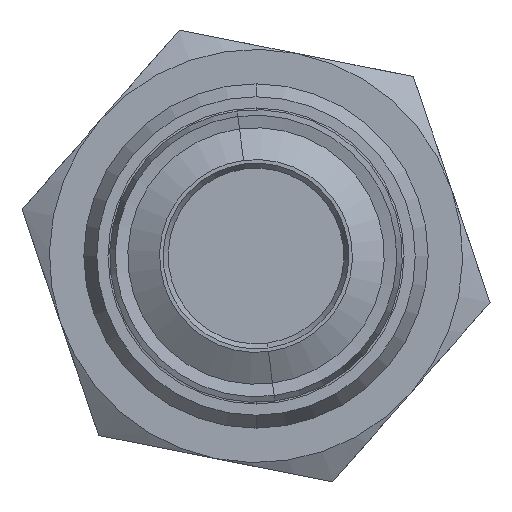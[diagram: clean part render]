
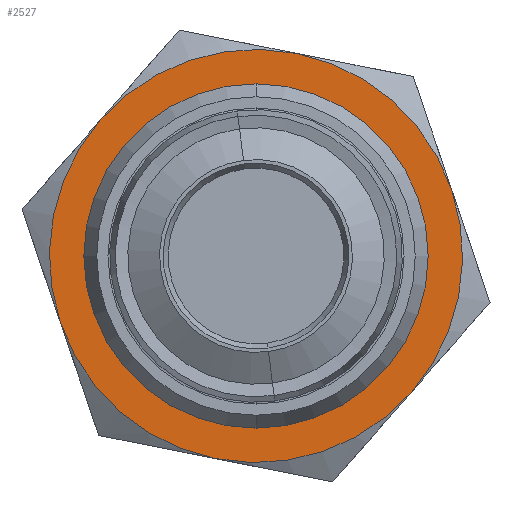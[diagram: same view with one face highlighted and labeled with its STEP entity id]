
A CAD part, front view. The second image highlights one B-rep face of the part: STEP entity #2527.
In plain terms, the highlighted planar face has unit normal (0, -1, 0).
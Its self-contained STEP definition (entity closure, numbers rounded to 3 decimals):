
#108 = AXIS2_PLACEMENT_3D ( 'NONE', #2832, #2865, #2871 ) ;
#143 = AXIS2_PLACEMENT_3D ( 'NONE', #2706, #2713, #2718 ) ;
#149 = DIRECTION ( 'NONE',  ( -0.195, 0., -0.981 ) ) ;
#203 = EDGE_CURVE ( 'NONE', #2036, #1544, #2442, .T. ) ;
#211 = DIRECTION ( 'NONE',  ( 0., -1., 0. ) ) ;
#384 = CARTESIAN_POINT ( 'NONE',  ( -18.188, 36.832, 5.522 ) ) ;
#447 = ORIENTED_EDGE ( 'NONE', *, *, #1353, .T. ) ;
#452 = DIRECTION ( 'NONE',  ( 0., -1., 0. ) ) ;
#531 = EDGE_CURVE ( 'NONE', #3167, #1917, #1327, .T. ) ;
#570 = DIRECTION ( 'NONE',  ( 0., -1., 0. ) ) ;
#595 = CARTESIAN_POINT ( 'NONE',  ( -18.188, 36.832, 5.522 ) ) ;
#598 = VERTEX_POINT ( 'NONE', #1940 ) ;
#622 = DIRECTION ( 'NONE',  ( -0.195, 0., -0.981 ) ) ;
#636 = AXIS2_PLACEMENT_3D ( 'NONE', #1200, #211, #149 ) ;
#662 = AXIS2_PLACEMENT_3D ( 'NONE', #595, #452, #622 ) ;
#722 = DIRECTION ( 'NONE',  ( -0.195, 0., -0.981 ) ) ;
#723 = EDGE_CURVE ( 'NONE', #1917, #598, #3392, .T. ) ;
#742 = EDGE_CURVE ( 'NONE', #598, #1533, #3198, .T. ) ;
#962 = CIRCLE ( 'NONE', #4121, 10. ) ;
#1087 = CARTESIAN_POINT ( 'NONE',  ( -18.188, 36.832, -4.478 ) ) ;
#1108 = FACE_OUTER_BOUND ( 'NONE', #2948, .T. ) ;
#1112 = CARTESIAN_POINT ( 'NONE',  ( -27.213, 36.832, 13.431 ) ) ;
#1145 = AXIS2_PLACEMENT_3D ( 'NONE', #1802, #1806, #1810 ) ;
#1149 = CARTESIAN_POINT ( 'NONE',  ( -20.526, 36.832, -6.248 ) ) ;
#1164 = FACE_BOUND ( 'NONE', #3497, .T. ) ;
#1190 = ORIENTED_EDGE ( 'NONE', *, *, #742, .T. ) ;
#1200 = CARTESIAN_POINT ( 'NONE',  ( -18.188, 36.832, 5.522 ) ) ;
#1228 = CARTESIAN_POINT ( 'NONE',  ( -18.188, 36.832, 5.522 ) ) ;
#1232 = DIRECTION ( 'NONE',  ( 0., 1., 0. ) ) ;
#1244 = DIRECTION ( 'NONE',  ( 0., 0., -1. ) ) ;
#1277 = EDGE_CURVE ( 'NONE', #3171, #2313, #3836, .T. ) ;
#1327 = CIRCLE ( 'NONE', #1145, 12. ) ;
#1353 = EDGE_CURVE ( 'NONE', #1533, #3171, #2961, .T. ) ;
#1500 = AXIS2_PLACEMENT_3D ( 'NONE', #3299, #3370, #3248 ) ;
#1523 = ORIENTED_EDGE ( 'NONE', *, *, #531, .T. ) ;
#1533 = VERTEX_POINT ( 'NONE', #3114 ) ;
#1544 = VERTEX_POINT ( 'NONE', #3128 ) ;
#1566 = EDGE_CURVE ( 'NONE', #1544, #2036, #962, .T. ) ;
#1572 = AXIS2_PLACEMENT_3D ( 'NONE', #1228, #1232, #1244 ) ;
#1802 = CARTESIAN_POINT ( 'NONE',  ( -18.188, 36.832, 5.522 ) ) ;
#1806 = DIRECTION ( 'NONE',  ( 0., -1., 0. ) ) ;
#1810 = DIRECTION ( 'NONE',  ( -0.195, 0., -0.981 ) ) ;
#1862 = CIRCLE ( 'NONE', #3926, 12. ) ;
#1917 = VERTEX_POINT ( 'NONE', #3771 ) ;
#1940 = CARTESIAN_POINT ( 'NONE',  ( -6.826, 36.832, 9.383 ) ) ;
#2013 = EDGE_CURVE ( 'NONE', #2313, #3167, #1862, .T. ) ;
#2036 = VERTEX_POINT ( 'NONE', #1087 ) ;
#2313 = VERTEX_POINT ( 'NONE', #3405 ) ;
#2404 = ORIENTED_EDGE ( 'NONE', *, *, #1566, .T. ) ;
#2442 = CIRCLE ( 'NONE', #1572, 10. ) ;
#2527 = ADVANCED_FACE ( 'NONE', ( #1164, #1108 ), #3264, .T. ) ;
#2706 = CARTESIAN_POINT ( 'NONE',  ( -18.188, 36.832, 5.522 ) ) ;
#2713 = DIRECTION ( 'NONE',  ( 0., -1., 0. ) ) ;
#2718 = DIRECTION ( 'NONE',  ( -0.195, 0., -0.981 ) ) ;
#2832 = CARTESIAN_POINT ( 'NONE',  ( -18.188, 36.832, 5.522 ) ) ;
#2865 = DIRECTION ( 'NONE',  ( 0., -1., 0. ) ) ;
#2871 = DIRECTION ( 'NONE',  ( -0.195, 0., -0.981 ) ) ;
#2948 = EDGE_LOOP ( 'NONE', ( #1523, #3442, #1190, #447, #3654, #3380 ) ) ;
#2961 = CIRCLE ( 'NONE', #108, 12. ) ;
#3114 = CARTESIAN_POINT ( 'NONE',  ( -15.851, 36.832, 17.292 ) ) ;
#3128 = CARTESIAN_POINT ( 'NONE',  ( -18.188, 36.832, 15.522 ) ) ;
#3167 = VERTEX_POINT ( 'NONE', #1149 ) ;
#3171 = VERTEX_POINT ( 'NONE', #1112 ) ;
#3176 = CARTESIAN_POINT ( 'NONE',  ( -18.188, 36.832, 5.522 ) ) ;
#3184 = DIRECTION ( 'NONE',  ( 0., 1., 0. ) ) ;
#3185 = DIRECTION ( 'NONE',  ( 0., 0., -1. ) ) ;
#3198 = CIRCLE ( 'NONE', #636, 12. ) ;
#3248 = DIRECTION ( 'NONE',  ( -0.195, 0., -0.981 ) ) ;
#3264 = PLANE ( 'NONE',  #1500 ) ;
#3299 = CARTESIAN_POINT ( 'NONE',  ( -18.188, 36.832, 5.522 ) ) ;
#3305 = ORIENTED_EDGE ( 'NONE', *, *, #203, .T. ) ;
#3370 = DIRECTION ( 'NONE',  ( 0., -1., 0. ) ) ;
#3380 = ORIENTED_EDGE ( 'NONE', *, *, #2013, .T. ) ;
#3392 = CIRCLE ( 'NONE', #662, 12. ) ;
#3405 = CARTESIAN_POINT ( 'NONE',  ( -29.55, 36.832, 1.661 ) ) ;
#3442 = ORIENTED_EDGE ( 'NONE', *, *, #723, .T. ) ;
#3497 = EDGE_LOOP ( 'NONE', ( #3305, #2404 ) ) ;
#3654 = ORIENTED_EDGE ( 'NONE', *, *, #1277, .T. ) ;
#3771 = CARTESIAN_POINT ( 'NONE',  ( -9.164, 36.832, -2.387 ) ) ;
#3836 = CIRCLE ( 'NONE', #143, 12. ) ;
#3926 = AXIS2_PLACEMENT_3D ( 'NONE', #384, #570, #722 ) ;
#4121 = AXIS2_PLACEMENT_3D ( 'NONE', #3176, #3184, #3185 ) ;
